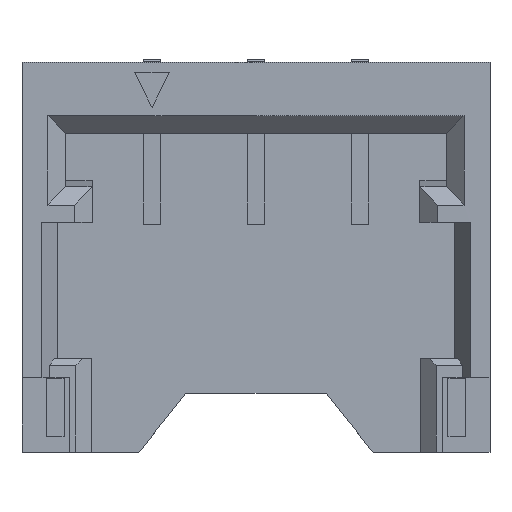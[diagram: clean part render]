
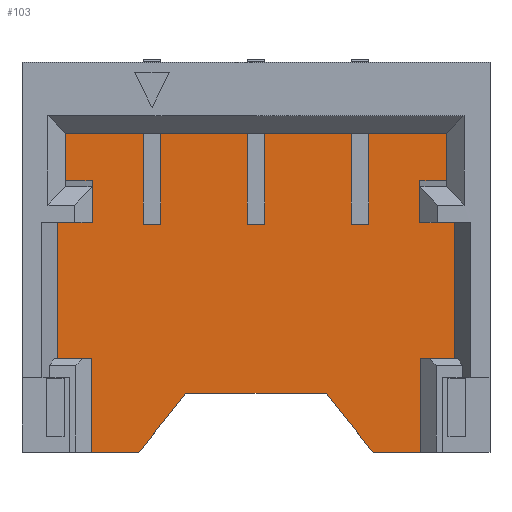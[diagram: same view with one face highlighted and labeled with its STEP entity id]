
A CAD part, top view. The second image highlights one B-rep face of the part: STEP entity #103.
In plain terms, the highlighted planar face has unit normal (0, 0, 1).
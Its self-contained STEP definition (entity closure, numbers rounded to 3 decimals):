
#103=ADVANCED_FACE('',(#287),#288,.T.);
#287=FACE_OUTER_BOUND('',#596,.T.);
#288=PLANE('',#597);
#596=EDGE_LOOP('',(#1165,#1166,#1167,#1168,#1169,#1170,#1171,#1172,#1173,#1174,#1175,#1176,#1177,#1178,#1179,#1180,#1181,#1182,#1183,#1184,#1185,#1186,#1187,#1188,#1189,#1190,#1191,#1192,#1193,#1194,#1195,#1196));
#597=AXIS2_PLACEMENT_3D('',#1197,#1198,#1199);
#1165=ORIENTED_EDGE('',*,*,#2357,.F.);
#1166=ORIENTED_EDGE('',*,*,#2358,.T.);
#1167=ORIENTED_EDGE('',*,*,#2359,.T.);
#1168=ORIENTED_EDGE('',*,*,#2175,.F.);
#1169=ORIENTED_EDGE('',*,*,#2360,.F.);
#1170=ORIENTED_EDGE('',*,*,#2361,.F.);
#1171=ORIENTED_EDGE('',*,*,#2362,.F.);
#1172=ORIENTED_EDGE('',*,*,#2345,.F.);
#1173=ORIENTED_EDGE('',*,*,#2337,.F.);
#1174=ORIENTED_EDGE('',*,*,#2363,.F.);
#1175=ORIENTED_EDGE('',*,*,#2364,.F.);
#1176=ORIENTED_EDGE('',*,*,#2356,.T.);
#1177=ORIENTED_EDGE('',*,*,#2346,.T.);
#1178=ORIENTED_EDGE('',*,*,#2349,.T.);
#1179=ORIENTED_EDGE('',*,*,#2351,.T.);
#1180=ORIENTED_EDGE('',*,*,#2264,.T.);
#1181=ORIENTED_EDGE('',*,*,#2254,.F.);
#1182=ORIENTED_EDGE('',*,*,#2261,.F.);
#1183=ORIENTED_EDGE('',*,*,#2365,.F.);
#1184=ORIENTED_EDGE('',*,*,#2330,.F.);
#1185=ORIENTED_EDGE('',*,*,#2366,.F.);
#1186=ORIENTED_EDGE('',*,*,#2367,.F.);
#1187=ORIENTED_EDGE('',*,*,#2368,.F.);
#1188=ORIENTED_EDGE('',*,*,#2187,.F.);
#1189=ORIENTED_EDGE('',*,*,#2369,.F.);
#1190=ORIENTED_EDGE('',*,*,#2370,.T.);
#1191=ORIENTED_EDGE('',*,*,#2371,.T.);
#1192=ORIENTED_EDGE('',*,*,#2183,.F.);
#1193=ORIENTED_EDGE('',*,*,#2372,.F.);
#1194=ORIENTED_EDGE('',*,*,#2373,.T.);
#1195=ORIENTED_EDGE('',*,*,#2374,.T.);
#1196=ORIENTED_EDGE('',*,*,#2179,.F.);
#1197=CARTESIAN_POINT('',(0.0,0.0,0.0));
#1198=DIRECTION('',(0.0,0.0,1.0));
#1199=DIRECTION('',(1.0,0.0,0.0));
#2175=EDGE_CURVE('',#2612,#2614,#2615,.T.);
#2179=EDGE_CURVE('',#2620,#2622,#2623,.T.);
#2183=EDGE_CURVE('',#2628,#2630,#2631,.T.);
#2187=EDGE_CURVE('',#2636,#2608,#2638,.T.);
#2254=EDGE_CURVE('',#2761,#2756,#2763,.T.);
#2261=EDGE_CURVE('',#2774,#2761,#2776,.T.);
#2264=EDGE_CURVE('',#2781,#2756,#2782,.T.);
#2330=EDGE_CURVE('',#2897,#2899,#2900,.T.);
#2337=EDGE_CURVE('',#2911,#2913,#2914,.T.);
#2345=EDGE_CURVE('',#2913,#2917,#2927,.T.);
#2346=EDGE_CURVE('',#2928,#2929,#2930,.T.);
#2349=EDGE_CURVE('',#2929,#2933,#2934,.T.);
#2351=EDGE_CURVE('',#2933,#2781,#2936,.T.);
#2356=EDGE_CURVE('',#2937,#2928,#2944,.T.);
#2357=EDGE_CURVE('',#2945,#2620,#2946,.T.);
#2358=EDGE_CURVE('',#2945,#2947,#2948,.T.);
#2359=EDGE_CURVE('',#2947,#2614,#2949,.T.);
#2360=EDGE_CURVE('',#2950,#2612,#2951,.T.);
#2361=EDGE_CURVE('',#2952,#2950,#2953,.T.);
#2362=EDGE_CURVE('',#2917,#2952,#2954,.T.);
#2363=EDGE_CURVE('',#2955,#2911,#2956,.T.);
#2364=EDGE_CURVE('',#2937,#2955,#2957,.T.);
#2365=EDGE_CURVE('',#2899,#2774,#2958,.T.);
#2366=EDGE_CURVE('',#2959,#2897,#2960,.T.);
#2367=EDGE_CURVE('',#2961,#2959,#2962,.T.);
#2368=EDGE_CURVE('',#2608,#2961,#2963,.T.);
#2369=EDGE_CURVE('',#2964,#2636,#2965,.T.);
#2370=EDGE_CURVE('',#2964,#2966,#2967,.T.);
#2371=EDGE_CURVE('',#2966,#2630,#2968,.T.);
#2372=EDGE_CURVE('',#2969,#2628,#2970,.T.);
#2373=EDGE_CURVE('',#2969,#2971,#2972,.T.);
#2374=EDGE_CURVE('',#2971,#2622,#2973,.T.);
#2608=VERTEX_POINT('',#3333);
#2612=VERTEX_POINT('',#3339);
#2614=VERTEX_POINT('',#3342);
#2615=LINE('',#3343,#3344);
#2620=VERTEX_POINT('',#3351);
#2622=VERTEX_POINT('',#3354);
#2623=LINE('',#3355,#3356);
#2628=VERTEX_POINT('',#3363);
#2630=VERTEX_POINT('',#3366);
#2631=LINE('',#3367,#3368);
#2636=VERTEX_POINT('',#3375);
#2638=LINE('',#3378,#3379);
#2756=VERTEX_POINT('',#3560);
#2761=VERTEX_POINT('',#3567);
#2763=LINE('',#3570,#3571);
#2774=VERTEX_POINT('',#3587);
#2776=LINE('',#3590,#3591);
#2781=VERTEX_POINT('',#3598);
#2782=LINE('',#3599,#3600);
#2897=VERTEX_POINT('',#3779);
#2899=VERTEX_POINT('',#3782);
#2900=LINE('',#3783,#3784);
#2911=VERTEX_POINT('',#3800);
#2913=VERTEX_POINT('',#3803);
#2914=LINE('',#3804,#3805);
#2917=VERTEX_POINT('',#3809);
#2927=LINE('',#3825,#3826);
#2928=VERTEX_POINT('',#3827);
#2929=VERTEX_POINT('',#3828);
#2930=LINE('',#3829,#3830);
#2933=VERTEX_POINT('',#3835);
#2934=LINE('',#3836,#3837);
#2936=LINE('',#3840,#3841);
#2937=VERTEX_POINT('',#3842);
#2944=LINE('',#3853,#3854);
#2945=VERTEX_POINT('',#3855);
#2946=LINE('',#3856,#3857);
#2947=VERTEX_POINT('',#3858);
#2948=LINE('',#3859,#3860);
#2949=LINE('',#3861,#3862);
#2950=VERTEX_POINT('',#3863);
#2951=LINE('',#3864,#3865);
#2952=VERTEX_POINT('',#3866);
#2953=LINE('',#3867,#3868);
#2954=LINE('',#3869,#3870);
#2955=VERTEX_POINT('',#3871);
#2956=LINE('',#3872,#3873);
#2957=LINE('',#3874,#3875);
#2958=LINE('',#3876,#3877);
#2959=VERTEX_POINT('',#3878);
#2960=LINE('',#3879,#3880);
#2961=VERTEX_POINT('',#3881);
#2962=LINE('',#3882,#3883);
#2963=LINE('',#3884,#3885);
#2964=VERTEX_POINT('',#3886);
#2965=LINE('',#3887,#3888);
#2966=VERTEX_POINT('',#3889);
#2967=LINE('',#3890,#3891);
#2968=LINE('',#3892,#3893);
#2969=VERTEX_POINT('',#3894);
#2970=LINE('',#3895,#3896);
#2971=VERTEX_POINT('',#3897);
#2972=LINE('',#3898,#3899);
#2973=LINE('',#3900,#3901);
#3333=CARTESIAN_POINT('',(1.0,3.47,0.0));
#3339=CARTESIAN_POINT('',(-3.4,3.47,0.0));
#3342=CARTESIAN_POINT('',(-2.5,3.47,0.));
#3343=CARTESIAN_POINT('',(1.0,3.47,0.0));
#3344=VECTOR('',#4465,1.0);
#3351=CARTESIAN_POINT('',(-2.3,3.47,0.));
#3354=CARTESIAN_POINT('',(-1.3,3.47,0.));
#3355=CARTESIAN_POINT('',(1.0,3.47,0.0));
#3356=VECTOR('',#4469,1.0);
#3363=CARTESIAN_POINT('',(-1.1,3.47,0.));
#3366=CARTESIAN_POINT('',(-0.1,3.47,0.));
#3367=CARTESIAN_POINT('',(1.0,3.47,0.0));
#3368=VECTOR('',#4473,1.0);
#3375=CARTESIAN_POINT('',(0.1,3.47,0.));
#3378=CARTESIAN_POINT('',(1.0,3.47,0.0));
#3379=VECTOR('',#4477,1.0);
#3560=CARTESIAN_POINT('',(0.7,-0.21,0.0));
#3567=CARTESIAN_POINT('',(0.7,0.87,0.0));
#3570=CARTESIAN_POINT('',(0.7,-0.21,0.0));
#3571=VECTOR('',#4544,1.0);
#3587=CARTESIAN_POINT('',(1.27,0.87,0.0));
#3590=CARTESIAN_POINT('',(0.7,0.87,0.0));
#3591=VECTOR('',#4551,1.0);
#3598=CARTESIAN_POINT('',(0.15,-0.21,0.0));
#3599=CARTESIAN_POINT('',(-3.1,-0.21,0.0));
#3600=VECTOR('',#4554,1.0);
#3779=CARTESIAN_POINT('',(0.69,2.44,0.0));
#3782=CARTESIAN_POINT('',(1.27,2.44,0.0));
#3783=CARTESIAN_POINT('',(1.27,2.44,0.0));
#3784=VECTOR('',#4620,1.0);
#3800=CARTESIAN_POINT('',(-3.67,0.87,0.0));
#3803=CARTESIAN_POINT('',(-3.67,2.44,0.0));
#3804=CARTESIAN_POINT('',(-3.67,2.44,0.0));
#3805=VECTOR('',#4627,1.0);
#3809=CARTESIAN_POINT('',(-3.09,2.44,0.0));
#3825=CARTESIAN_POINT('',(-3.09,2.44,0.0));
#3826=VECTOR('',#4635,1.0);
#3827=CARTESIAN_POINT('',(-2.55,-0.21,0.0));
#3828=CARTESIAN_POINT('',(-2.01,0.47,0.0));
#3829=CARTESIAN_POINT('',(-2.55,-0.21,0.0));
#3830=VECTOR('',#4636,1.0);
#3835=CARTESIAN_POINT('',(-0.39,0.47,0.0));
#3836=CARTESIAN_POINT('',(-2.01,0.47,0.0));
#3837=VECTOR('',#4639,1.0);
#3840=CARTESIAN_POINT('',(-0.39,0.47,0.0));
#3841=VECTOR('',#4641,1.0);
#3842=CARTESIAN_POINT('',(-3.1,-0.21,0.0));
#3853=CARTESIAN_POINT('',(-3.1,-0.21,0.0));
#3854=VECTOR('',#4646,1.0);
#3855=CARTESIAN_POINT('',(-2.3,2.42,0.));
#3856=CARTESIAN_POINT('',(-2.3,-6.925,0.));
#3857=VECTOR('',#4647,1.0);
#3858=CARTESIAN_POINT('',(-2.5,2.42,0.0));
#3859=CARTESIAN_POINT('',(-2.5,2.42,0.));
#3860=VECTOR('',#4648,1.0);
#3861=CARTESIAN_POINT('',(-2.5,-6.925,0.));
#3862=VECTOR('',#4649,1.0);
#3863=CARTESIAN_POINT('',(-3.4,2.924,0.0));
#3864=CARTESIAN_POINT('',(-3.4,3.47,0.0));
#3865=VECTOR('',#4650,1.0);
#3866=CARTESIAN_POINT('',(-3.09,2.924,0.0));
#3867=CARTESIAN_POINT('',(-3.4,2.924,0.0));
#3868=VECTOR('',#4651,1.0);
#3869=CARTESIAN_POINT('',(-3.09,2.84,0.0));
#3870=VECTOR('',#4652,1.0);
#3871=CARTESIAN_POINT('',(-3.1,0.87,0.0));
#3872=CARTESIAN_POINT('',(-3.67,0.87,0.0));
#3873=VECTOR('',#4653,1.0);
#3874=CARTESIAN_POINT('',(-3.1,0.87,0.0));
#3875=VECTOR('',#4654,1.0);
#3876=CARTESIAN_POINT('',(1.27,0.87,0.0));
#3877=VECTOR('',#4655,1.0);
#3878=CARTESIAN_POINT('',(0.69,2.924,0.0));
#3879=CARTESIAN_POINT('',(0.69,2.44,0.0));
#3880=VECTOR('',#4656,1.0);
#3881=CARTESIAN_POINT('',(1.0,2.924,0.0));
#3882=CARTESIAN_POINT('',(0.69,2.924,0.0));
#3883=VECTOR('',#4657,1.0);
#3884=CARTESIAN_POINT('',(1.0,2.84,0.0));
#3885=VECTOR('',#4658,1.0);
#3886=CARTESIAN_POINT('',(0.1,2.42,0.));
#3887=CARTESIAN_POINT('',(0.1,-6.925,0.));
#3888=VECTOR('',#4659,1.0);
#3889=CARTESIAN_POINT('',(-0.1,2.42,0.0));
#3890=CARTESIAN_POINT('',(-0.1,2.42,0.));
#3891=VECTOR('',#4660,1.0);
#3892=CARTESIAN_POINT('',(-0.1,-6.925,0.));
#3893=VECTOR('',#4661,1.0);
#3894=CARTESIAN_POINT('',(-1.1,2.42,0.));
#3895=CARTESIAN_POINT('',(-1.1,-6.925,0.));
#3896=VECTOR('',#4662,1.0);
#3897=CARTESIAN_POINT('',(-1.3,2.42,0.0));
#3898=CARTESIAN_POINT('',(-1.3,2.42,0.));
#3899=VECTOR('',#4663,1.0);
#3900=CARTESIAN_POINT('',(-1.3,-6.925,0.));
#3901=VECTOR('',#4664,1.0);
#4465=DIRECTION('',(1.0,0.0,0.0));
#4469=DIRECTION('',(1.0,0.0,0.0));
#4473=DIRECTION('',(1.0,0.0,0.0));
#4477=DIRECTION('',(1.0,0.0,0.0));
#4544=DIRECTION('',(0.0,-1.0,0.0));
#4551=DIRECTION('',(-1.0,0.0,0.0));
#4554=DIRECTION('',(1.0,0.0,0.0));
#4620=DIRECTION('',(1.0,0.,0.0));
#4627=DIRECTION('',(0.,1.0,0.0));
#4635=DIRECTION('',(1.0,0.0,0.0));
#4636=DIRECTION('',(0.622,0.783,0.0));
#4639=DIRECTION('',(1.0,0.,0.0));
#4641=DIRECTION('',(0.622,-0.783,0.0));
#4646=DIRECTION('',(1.0,0.0,0.0));
#4647=DIRECTION('',(0.0,1.0,0.0));
#4648=DIRECTION('',(-1.0,0.,0.));
#4649=DIRECTION('',(0.0,1.0,0.0));
#4650=DIRECTION('',(0.0,1.0,0.0));
#4651=DIRECTION('',(-1.0,0.0,0.0));
#4652=DIRECTION('',(0.0,1.0,0.0));
#4653=DIRECTION('',(-1.0,0.0,0.0));
#4654=DIRECTION('',(0.0,1.0,0.0));
#4655=DIRECTION('',(0.0,-1.0,0.0));
#4656=DIRECTION('',(0.0,-1.0,0.0));
#4657=DIRECTION('',(-1.0,0.0,0.0));
#4658=DIRECTION('',(0.0,-1.0,0.0));
#4659=DIRECTION('',(0.0,1.0,0.0));
#4660=DIRECTION('',(-1.0,0.,0.));
#4661=DIRECTION('',(0.0,1.0,0.0));
#4662=DIRECTION('',(0.0,1.0,0.0));
#4663=DIRECTION('',(-1.0,0.,0.));
#4664=DIRECTION('',(0.0,1.0,0.0));
